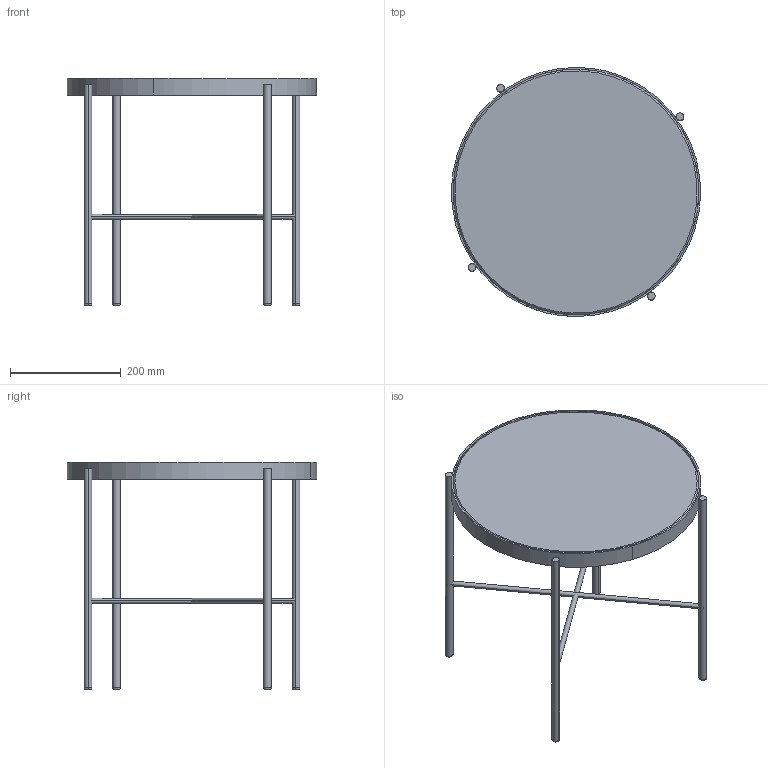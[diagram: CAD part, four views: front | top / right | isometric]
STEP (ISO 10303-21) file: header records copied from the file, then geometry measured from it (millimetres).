
FILE_DESCRIPTION(/* description */ (''),/* implementation_level */ '2;1');
FILE_NAME(/* name */ 'KINOSH~1',/* time_stamp */ '2019-07-24T09:46:43+09:00',/* author */ (''),/* organization */ (''),/* preprocessor_version */ 'ST-DEVELOPER v15',/* originating_system */ '',/* authorisation */ '');
FILE_SCHEMA (('AUTOMOTIVE_DESIGN'));
Length unit declared in the file: millimetre
Products named in the file (1): Document
Bounding box: 449.83 x 450 x 410.2 mm (x, y, z)
Volume: 1192668.6 mm3; surface area: 504014.4 mm2
Topology: 8 solids, 8 shells, 44 faces, 75 edges, 47 vertices
Faces by surface type: bspline 28, plane 16
Entity records: 1655 total; most frequent: CARTESIAN_POINT 1147, ORIENTED_EDGE 150, EDGE_CURVE 75, VERTEX_POINT 47, EDGE_LOOP 46, ADVANCED_FACE 44, FACE_OUTER_BOUND 44, DIRECTION 20
